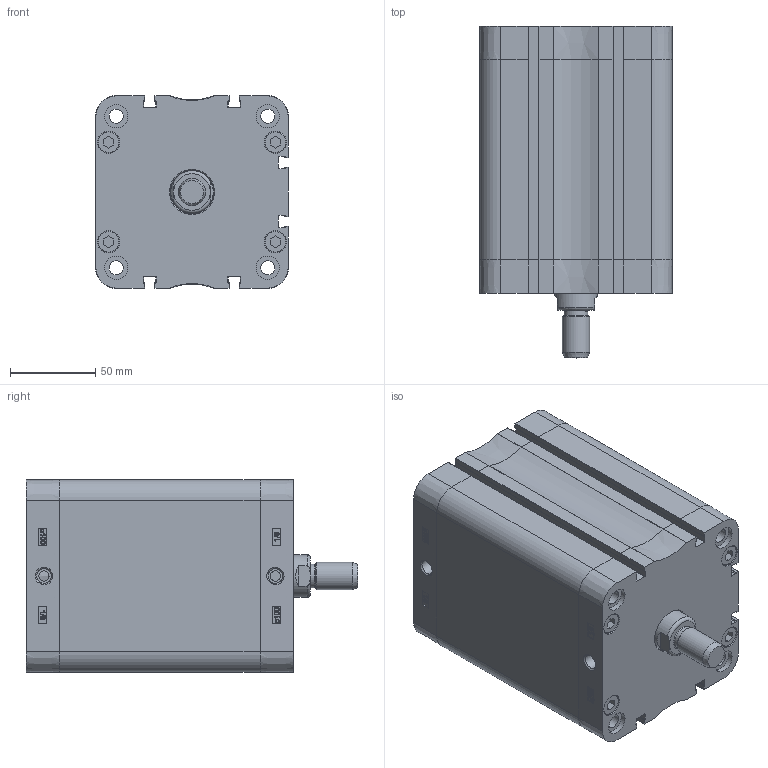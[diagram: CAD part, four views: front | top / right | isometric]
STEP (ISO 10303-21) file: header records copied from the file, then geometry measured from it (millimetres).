
FILE_DESCRIPTION((''),'2;1');
FILE_NAME('T:\Archivio Inventor\- CATALOGHI 2012\SERIE P - NUOVA\PDM\PDM100\PDM100.---.GS.M\PDM100.090.GS.M.stp','2013-02-05T11:43:54',('Administrator'),(''),'Autodesk Inventor 2012','Autodesk Inventor 2012','');
FILE_SCHEMA(('CONFIG_CONTROL_DESIGN'));
Length unit declared in the file: millimetre
Products named in the file (1): PDM100.090.GS.M
Bounding box: 113.3 x 195 x 113.3 mm (x, y, z)
Volume: 799943.1 mm3; surface area: 231688.8 mm2
Topology: 1 solids, 5 shells, 908 faces, 2136 edges, 1312 vertices
Faces by surface type: plane 371, bspline 226, cylinder 148, cone 81, torus 58, sphere 24
Full cylindrical faces by diameter (mm): 6 x2, 8.3 x4, 8.376 x8, 8.566 x2, 9.976 x4, 12 x1, 12.7 x8, 13.1 x8, 13.5 x8, 14 x1, 16 x1, 25 x1, 25.5 x1, 100 x1, 103.5 x1, 103.7 x1
Entity records: 29567 total; most frequent: CARTESIAN_POINT 9699, ORIENTED_EDGE 4030, DIRECTION 3400, EDGE_CURVE 2015, VERTEX_POINT 1291, AXIS2_PLACEMENT_3D 1208, EDGE_LOOP 1088, VECTOR 984
